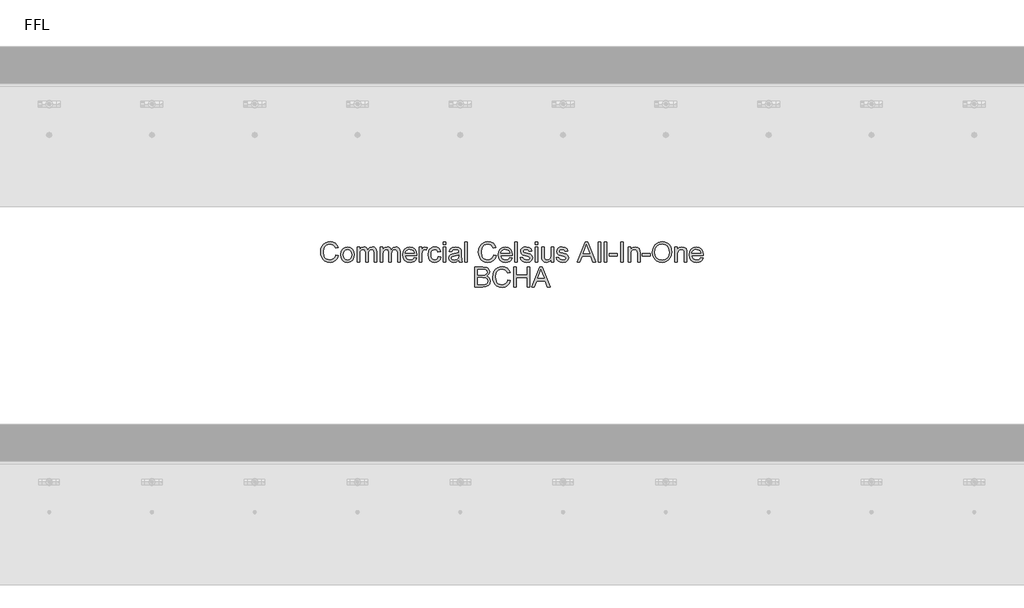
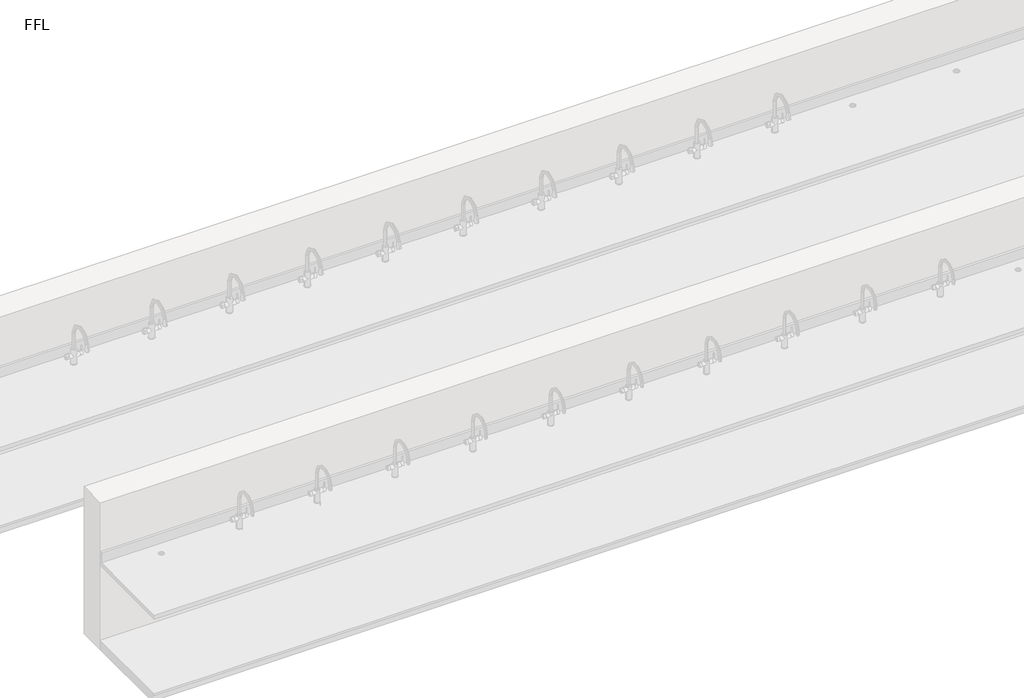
# One storey, part 7 of 9: 1 proxy.
"""IFC4 building model written with IfcOpenShell, lengths in millimetres."""

from ifc_helpers import new_model, si_unit, origin, origin_with_axes, place, context, project, spatial, polyline, outline, extrude, element, save

model = new_model("IFC4")

# Units and contexts
model_context = context("Model", 3, world=origin())
ifc_project = project(units=[si_unit("LENGTHUNIT", "METRE", prefix="MILLI")], contexts=[model_context])

# Site, building, storey
site = spatial("IfcSite", under=ifc_project)
building = spatial("IfcBuilding", under=site)
storey = spatial("IfcBuildingStorey", under=building, Name="FFL", Elevation=0.0)

# Proxy
placement = place(None, origin())
element("IfcBuildingElementProxy", 1, Name="150mm Arial", ObjectType="150mm Arial", at=placement, inside=storey, context=model_context, shape_type="SweptSolid", body=[
    extrude(outline(polyline([(-3627.8122159, 6596.3018309), (-3609.3506775, 6591.5422155), (-3617.8693073, 6570.0292948), (-3631.2376967, 6554.3126482), (-3648.7977929, 6544.698766), (-3669.8915429, 6541.4941386), (-3691.3053049, 6543.9190184), (-3708.311014, 6551.1936578), (-3721.3458698, 6563.065653), (-3730.8470717, 6579.2826001), (-3736.647853, 6598.3481049), (-3738.5814467, 6618.7657732), (-3736.3954491, 6640.3012299), (-3729.8374563, 6658.8979847), (-3719.2500164, 6673.9655929), (-3704.9756775, 6684.9136097), (-3688.0465909, 6691.5797756), (-3669.4949083, 6693.8018309), (-3649.2530212, 6690.9262299), (-3632.5177448, 6682.299427), (-3619.8119155, 6668.4532732), (-3611.6583698, 6649.9196193), (-3630.1199083, 6645.5205809), (-3636.5201486, 6658.9836217), (-3645.264139, 6668.2188982), (-3656.4600525, 6673.5599439), (-3670.2160621, 6675.3402924), (-3686.0724323, 6673.3661338), (-3699.0982736, 6667.4436578), (-3708.9825885, 6658.1948597), (-3715.4143794, 6646.2417347), (-3720.1199083, 6618.8018309), (-3714.5489948, 6586.9989463), (-3707.4276006, 6575.1224439), (-3697.2052448, 6566.6804367), (-3684.9501366, 6561.6368669), (-3671.7304852, 6559.955677), (-3656.3203289, 6562.2453405), (-3643.4792833, 6569.1143309), (-3633.7842712, 6580.4905328), (-3627.8122159, 6596.3018309)])), origin_with_axes(), (0.0, 0.0, 1.0), 5.0),
    extrude(outline(polyline([(-3590.889139, 6598.0326001), (-3586.8957496, 6624.1834415), (-3574.9155813, 6642.5638501), (-3560.1138986, 6651.5692588), (-3542.3915429, 6654.5710617), (-3522.9970116, 6650.9157131), (-3507.5057256, 6639.9496674), (-3497.350978, 6622.5383092), (-3493.9660621, 6599.5470232), (-3495.4624563, 6580.8961818), (-3499.951639, 6566.6984655), (-3507.302901, 6556.0659535), (-3517.3855333, 6548.1107251), (-3529.3611943, 6543.1482852), (-3542.3915429, 6541.4941386), (-3562.0204491, 6545.1359655), (-3577.4937063, 6556.0614463), (-3587.5402809, 6573.8378886), (-3590.889139, 6598.0326001)]), holes=[polyline([(-3572.4276006, 6598.0686578), (-3570.2911823, 6581.3604246), (-3563.8819275, 6569.456879), (-3554.2364948, 6562.3309775), (-3542.3915429, 6559.955677), (-3530.6006775, 6562.3444992), (-3520.9732736, 6569.5109655), (-3514.5640188, 6581.5722636), (-3512.4276006, 6598.6455809), (-3514.5775405, 6614.8670352), (-3521.0273602, 6626.6083213), (-3530.6682857, 6633.7342227), (-3542.3915429, 6636.1095232), (-3554.2364948, 6633.7432371), (-3563.8819275, 6626.644379), (-3570.2911823, 6614.7678766), (-3572.4276006, 6598.0686578)])]), origin_with_axes(), (0.0, 0.0, 1.0), 5.0),
    extrude(outline(polyline([(-3473.1968313, 6543.8018309), (-3473.1968313, 6652.2633693), (-3454.7352929, 6652.2633693), (-3454.7352929, 6634.4148117), (-3442.0429852, 6649.0362059), (-3423.9780813, 6654.5710617), (-3413.7106534, 6653.1603044), (-3405.4804852, 6648.9280328), (-3395.3122159, 6633.1167347), (-3380.9071679, 6649.2074799), (-3362.7160621, 6654.5710617), (-3348.8383578, 6652.3399919), (-3338.5754371, 6645.6467828), (-3332.2337905, 6634.3111458), (-3330.1199083, 6618.1527924), (-3330.1199083, 6543.8018309), (-3348.5814467, 6543.8018309), (-3348.5814467, 6610.2201001), (-3350.2941871, 6625.6347636), (-3356.4961102, 6633.2249078), (-3367.0429852, 6636.1095232), (-3377.0444876, 6634.2615665), (-3385.1980333, 6628.7176963), (-3390.6202087, 6619.0993068), (-3392.4276006, 6605.0277924), (-3392.4276006, 6543.8018309), (-3410.889139, 6543.8018309), (-3410.889139, 6612.2753886), (-3415.1619756, 6630.160004), (-3420.8004972, 6634.6221434), (-3429.170389, 6636.1095232), (-3442.8362544, 6632.143177), (-3451.9227929, 6620.5326001), (-3454.7352929, 6598.5013501), (-3454.7352929, 6543.8018309), (-3473.1968313, 6543.8018309)])), origin_with_axes(), (0.0, 0.0, 1.0), 5.0),
    extrude(outline(polyline([(-3302.4276006, 6543.8018309), (-3302.4276006, 6652.2633693), (-3283.9660621, 6652.2633693), (-3283.9660621, 6634.4148117), (-3271.2737544, 6649.0362059), (-3253.2088506, 6654.5710617), (-3242.9414227, 6653.1603044), (-3234.7112544, 6648.9280328), (-3224.5429852, 6633.1167347), (-3210.1379371, 6649.2074799), (-3191.9468313, 6654.5710617), (-3178.069127, 6652.3399919), (-3167.8062063, 6645.6467828), (-3161.4645597, 6634.3111458), (-3159.3506775, 6618.1527924), (-3159.3506775, 6543.8018309), (-3177.8122159, 6543.8018309), (-3177.8122159, 6610.2201001), (-3179.5249563, 6625.6347636), (-3185.7268794, 6633.2249078), (-3196.2737544, 6636.1095232), (-3206.2752568, 6634.2615665), (-3214.4288025, 6628.7176963), (-3219.850978, 6619.0993068), (-3221.6583698, 6605.0277924), (-3221.6583698, 6543.8018309), (-3240.1199083, 6543.8018309), (-3240.1199083, 6612.2753886), (-3244.3927448, 6630.160004), (-3250.0312664, 6634.6221434), (-3258.4011583, 6636.1095232), (-3272.0670236, 6632.143177), (-3281.1535621, 6620.5326001), (-3283.9660621, 6598.5013501), (-3283.9660621, 6543.8018309), (-3302.4276006, 6543.8018309)])), origin_with_axes(), (0.0, 0.0, 1.0), 5.0),
    extrude(outline(polyline([(-3055.7208698, 6576.1095232), (-3037.6199083, 6573.8018309), (-3044.1418434, 6560.1630088), (-3054.5489948, 6549.9676963), (-3068.6069876, 6543.612528), (-3086.0814467, 6541.4941386), (-3107.7431054, 6545.1494871), (-3124.4107736, 6556.1155328), (-3135.0387784, 6573.6801362), (-3138.5814467, 6597.1311578), (-3135.0027208, 6621.3709415), (-3124.2665429, 6639.4989463), (-3107.8242352, 6650.8030328), (-3087.1271198, 6654.5710617), (-3067.0745357, 6650.8120472), (-3051.0513986, 6639.535004), (-3040.5450885, 6621.4430568), (-3037.0429852, 6597.2393309), (-3037.1511583, 6592.2633693), (-3120.1199083, 6592.2633693), (-3116.9242953, 6578.4442588), (-3109.5009179, 6568.285004), (-3098.787276, 6562.0380088), (-3085.7208698, 6559.955677), (-3067.6199083, 6563.8138501), (-3055.7208698, 6576.1095232)]), holes=[polyline([(-3120.1199083, 6610.7249078), (-3055.5045236, 6610.7249078), (-3058.0015188, 6620.4785136), (-3062.8963506, 6627.455677), (-3073.6595717, 6633.9460617), (-3087.1992352, 6636.1095232), (-3099.6436462, 6634.3832612), (-3109.9336102, 6629.2044751), (-3117.0865549, 6621.1320592), (-3120.1199083, 6610.7249078)])]), origin_with_axes(), (0.0, 0.0, 1.0), 5.0),
    extrude(outline(polyline([(-3018.5814467, 6543.8018309), (-3018.5814467, 6652.2633693), (-3002.4276006, 6652.2633693), (-3002.4276006, 6636.2176963), (-2990.9612544, 6651.0013501), (-2979.4227929, 6654.5710617), (-2960.889139, 6648.8739463), (-2967.0550044, 6632.3234655), (-2980.0357736, 6636.1095232), (-2990.4744756, 6632.4676963), (-2997.1271198, 6622.3715424), (-3000.1199083, 6600.8090424), (-3000.1199083, 6543.8018309), (-3018.5814467, 6543.8018309)])), origin_with_axes(), (0.0, 0.0, 1.0), 5.0),
    extrude(outline(polyline([(-2880.1199083, 6583.0326001), (-2861.6583698, 6580.7249078), (-2866.8056054, 6564.3051362), (-2876.4780813, 6551.8967828), (-2889.7653409, 6544.0947996), (-2905.7569275, 6541.4941386), (-2925.3948482, 6545.1224439), (-2940.7509179, 6556.0073597), (-2950.662276, 6573.6711217), (-2953.9660621, 6597.6359655), (-2948.3230333, 6628.3030328), (-2941.201639, 6639.8009294), (-2931.123514, 6648.0085617), (-2919.0667232, 6652.9304367), (-2906.0093313, 6654.5710617), (-2890.4098722, 6652.3174559), (-2877.9384179, 6645.5566386), (-2868.991603, 6634.6491867), (-2863.9660621, 6619.955677), (-2882.4276006, 6617.6479847), (-2890.9913025, 6631.4761097), (-2905.8651006, 6636.1095232), (-2917.7956895, 6633.8288742), (-2927.2653409, 6626.986927), (-2933.444728, 6615.2140905), (-2935.5045236, 6598.1407732), (-2933.4898001, 6580.8375881), (-2927.4456294, 6569.0241867), (-2918.147252, 6562.2228044), (-2906.3699083, 6559.955677), (-2896.8101126, 6561.3709415), (-2888.9720717, 6565.6167347), (-2883.2704491, 6572.8012299), (-2880.1199083, 6583.0326001)])), origin_with_axes(), (0.0, 0.0, 1.0), 5.0),
    extrude(outline(polyline([(-2845.5045236, 6673.0326001), (-2845.5045236, 6691.4941386), (-2827.0429852, 6691.4941386), (-2827.0429852, 6673.0326001), (-2845.5045236, 6673.0326001)])), origin_with_axes(), (0.0, 0.0, 1.0), 5.0),
    extrude(outline(polyline([(-2845.5045236, 6543.8018309), (-2845.5045236, 6652.2633693), (-2827.0429852, 6652.2633693), (-2827.0429852, 6543.8018309), (-2845.5045236, 6543.8018309)])), origin_with_axes(), (0.0, 0.0, 1.0), 5.0),
    extrude(outline(polyline([(-2730.1199083, 6557.6479847), (-2748.0225525, 6545.1359655), (-2767.8001967, 6541.4941386), (-2783.2283818, 6543.6846434), (-2794.6090909, 6550.2561578), (-2801.6268193, 6560.2351242), (-2803.9660621, 6572.6479847), (-2800.4324083, 6587.2513501), (-2791.1475525, 6597.8523117), (-2778.2208698, 6603.910004), (-2762.2473121, 6606.6864463), (-2730.2280813, 6613.0326001), (-2730.1199083, 6617.143177), (-2731.3909419, 6625.3823597), (-2735.2040429, 6630.7729847), (-2743.7316871, 6634.7753886), (-2755.6126967, 6636.1095232), (-2774.2905813, 6632.5578405), (-2783.1968313, 6619.955677), (-2801.6583698, 6622.2633693), (-2793.6715909, 6640.2922155), (-2777.5898602, 6650.8571193), (-2753.232889, 6654.5710617), (-2730.8590909, 6651.2898117), (-2718.2208698, 6643.050629), (-2712.5598121, 6630.5205809), (-2711.6583698, 6614.3667347), (-2711.6583698, 6591.3979847), (-2710.7208698, 6559.3246674), (-2707.0429852, 6543.8018309), (-2725.5045236, 6543.8018309), (-2730.1199083, 6557.6479847)]), holes=[polyline([(-2730.1199083, 6594.5710617), (-2759.9035621, 6588.910004), (-2775.7869756, 6585.9172155), (-2782.9804852, 6581.049427), (-2785.5045236, 6573.9460617), (-2780.0057256, 6563.9580809), (-2763.8699083, 6559.955677), (-2745.1920236, 6564.3727443), (-2733.1487544, 6575.0638501), (-2730.2280813, 6589.3426963), (-2730.1199083, 6594.5710617)])]), origin_with_axes(), (0.0, 0.0, 1.0), 5.0),
    extrude(outline(polyline([(-2686.2737544, 6543.8018309), (-2686.2737544, 6691.4941386), (-2667.8122159, 6691.4941386), (-2667.8122159, 6543.8018309), (-2686.2737544, 6543.8018309)])), origin_with_axes(), (0.0, 0.0, 1.0), 5.0),
    extrude(outline(polyline([(-2476.2737544, 6596.3018309), (-2457.8122159, 6591.5422155), (-2466.3308458, 6570.0292948), (-2479.6992352, 6554.3126482), (-2497.2593313, 6544.698766), (-2518.3530813, 6541.4941386), (-2539.7668434, 6543.9190184), (-2556.7725525, 6551.1936578), (-2569.8074083, 6563.065653), (-2579.3086102, 6579.2826001), (-2585.1093914, 6598.3481049), (-2587.0429852, 6618.7657732), (-2584.8569876, 6640.3012299), (-2578.2989948, 6658.8979847), (-2567.7115549, 6673.9655929), (-2553.4372159, 6684.9136097), (-2536.5081294, 6691.5797756), (-2517.9564467, 6693.8018309), (-2497.7145597, 6690.9262299), (-2480.9792833, 6682.299427), (-2468.2734539, 6668.4532732), (-2460.1199083, 6649.9196193), (-2478.5814467, 6645.5205809), (-2484.9816871, 6658.9836217), (-2493.7256775, 6668.2188982), (-2504.9215909, 6673.5599439), (-2518.6776006, 6675.3402924), (-2534.5339708, 6673.3661338), (-2547.5598121, 6667.4436578), (-2557.444127, 6658.1948597), (-2563.8759179, 6646.2417347), (-2568.5814467, 6618.8018309), (-2563.0105333, 6586.9989463), (-2555.889139, 6575.1224439), (-2545.6667833, 6566.6804367), (-2533.4116751, 6561.6368669), (-2520.1920236, 6559.955677), (-2504.7818674, 6562.2453405), (-2491.9408217, 6569.1143309), (-2482.2458097, 6580.4905328), (-2476.2737544, 6596.3018309)])), origin_with_axes(), (0.0, 0.0, 1.0), 5.0),
    extrude(outline(polyline([(-2358.7977929, 6576.1095232), (-2340.6968313, 6573.8018309), (-2347.2187664, 6560.1630088), (-2357.6259179, 6549.9676963), (-2371.6839107, 6543.612528), (-2389.1583698, 6541.4941386), (-2410.8200284, 6545.1494871), (-2427.4876967, 6556.1155328), (-2438.1157015, 6573.6801362), (-2441.6583698, 6597.1311578), (-2438.0796438, 6621.3709415), (-2427.3434659, 6639.4989463), (-2410.9011583, 6650.8030328), (-2390.2040429, 6654.5710617), (-2370.1514587, 6650.8120472), (-2354.1283217, 6639.535004), (-2343.6220116, 6621.4430568), (-2340.1199083, 6597.2393309), (-2340.2280813, 6592.2633693), (-2423.1968313, 6592.2633693), (-2420.0012184, 6578.4442588), (-2412.5778409, 6568.285004), (-2401.8641991, 6562.0380088), (-2388.7977929, 6559.955677), (-2370.6968313, 6563.8138501), (-2358.7977929, 6576.1095232)]), holes=[polyline([(-2423.1968313, 6610.7249078), (-2358.5814467, 6610.7249078), (-2361.0784419, 6620.4785136), (-2365.9732736, 6627.455677), (-2376.7364948, 6633.9460617), (-2390.2761583, 6636.1095232), (-2402.7205693, 6634.3832612), (-2413.0105333, 6629.2044751), (-2420.163478, 6621.1320592), (-2423.1968313, 6610.7249078)])]), origin_with_axes(), (0.0, 0.0, 1.0), 5.0),
    extrude(outline(polyline([(-2321.6583698, 6543.8018309), (-2321.6583698, 6691.4941386), (-2303.1968313, 6691.4941386), (-2303.1968313, 6543.8018309), (-2321.6583698, 6543.8018309)])), origin_with_axes(), (0.0, 0.0, 1.0), 5.0),
    extrude(outline(polyline([(-2282.4276006, 6576.1095232), (-2263.9660621, 6578.4172155), (-2261.0544034, 6570.5205809), (-2255.420389, 6564.7152924), (-2235.8410621, 6559.955677), (-2217.0189467, 6564.3186578), (-2210.889139, 6574.5590424), (-2217.0550044, 6582.8523117), (-2236.0574083, 6588.1167347), (-2263.857889, 6597.1491867), (-2275.9913025, 6607.6960617), (-2280.1199083, 6622.5878886), (-2276.8026006, 6636.3438982), (-2267.7521198, 6646.8547155), (-2256.0153409, 6652.3174559), (-2240.1319275, 6654.5710617), (-2217.6679852, 6650.9472636), (-2203.389139, 6641.1395713), (-2197.0429852, 6624.5710617), (-2215.5045236, 6622.2633693), (-2222.4456294, 6632.4496674), (-2238.6896198, 6636.1095232), (-2256.357889, 6632.611927), (-2261.6583698, 6624.4628886), (-2259.4588506, 6619.0902924), (-2252.5718313, 6615.0157732), (-2236.670389, 6611.0854847), (-2209.5730333, 6602.3955809), (-2196.9888986, 6592.5518309), (-2192.4276006, 6576.5061578), (-2197.7821679, 6558.8378886), (-2213.232889, 6546.019379), (-2236.0934659, 6541.4941386), (-2254.7082496, 6543.675629), (-2268.2929852, 6550.2201001), (-2277.3614948, 6561.0554367), (-2282.4276006, 6576.1095232)])), origin_with_axes(), (0.0, 0.0, 1.0), 5.0),
    extrude(outline(polyline([(-2171.6583698, 6543.8018309), (-2171.6583698, 6652.2633693), (-2153.1968313, 6652.2633693), (-2153.1968313, 6543.8018309), (-2171.6583698, 6543.8018309)])), origin_with_axes(), (0.0, 0.0, 1.0), 5.0),
    extrude(outline(polyline([(-2171.6583698, 6673.0326001), (-2171.6583698, 6691.4941386), (-2153.1968313, 6691.4941386), (-2153.1968313, 6673.0326001), (-2171.6583698, 6673.0326001)])), origin_with_axes(), (0.0, 0.0, 1.0), 5.0),
    extrude(outline(polyline([(-2056.2737544, 6543.8018309), (-2056.2737544, 6562.4436578), (-2070.732889, 6546.7315184), (-2089.5910621, 6541.4941386), (-2106.9528409, 6545.1720232), (-2118.9239948, 6554.4027924), (-2124.4227929, 6567.9965424), (-2125.5045236, 6585.160004), (-2125.5045236, 6652.2633693), (-2107.0429852, 6652.2633693), (-2107.0429852, 6593.8499078), (-2105.9251967, 6575.0277924), (-2098.623514, 6563.9761097), (-2084.8675044, 6559.955677), (-2069.4528409, 6564.066254), (-2059.2665429, 6575.2621674), (-2056.2737544, 6595.8330809), (-2056.2737544, 6652.2633693), (-2037.8122159, 6652.2633693), (-2037.8122159, 6543.8018309), (-2056.2737544, 6543.8018309)])), origin_with_axes(), (0.0, 0.0, 1.0), 5.0),
    extrude(outline(polyline([(-2019.3506775, 6576.1095232), (-2000.889139, 6578.4172155), (-1997.9774804, 6570.5205809), (-1992.3434659, 6564.7152924), (-1972.764139, 6559.955677), (-1953.9420236, 6564.3186578), (-1947.8122159, 6574.5590424), (-1953.9780813, 6582.8523117), (-1972.9804852, 6588.1167347), (-2000.7809659, 6597.1491867), (-2012.9143794, 6607.6960617), (-2017.0429852, 6622.5878886), (-2013.7256775, 6636.3438982), (-2004.6751967, 6646.8547155), (-1992.9384179, 6652.3174559), (-1977.0550044, 6654.5710617), (-1954.5910621, 6650.9472636), (-1940.3122159, 6641.1395713), (-1933.9660621, 6624.5710617), (-1952.4276006, 6622.2633693), (-1959.3687063, 6632.4496674), (-1975.6126967, 6636.1095232), (-1993.2809659, 6632.611927), (-1998.5814467, 6624.4628886), (-1996.3819275, 6619.0902924), (-1989.4949083, 6615.0157732), (-1973.5934659, 6611.0854847), (-1946.4961102, 6602.3955809), (-1933.9119756, 6592.5518309), (-1929.3506775, 6576.5061578), (-1934.7052448, 6558.8378886), (-1950.1559659, 6546.019379), (-1973.0165429, 6541.4941386), (-1991.6313265, 6543.675629), (-2005.2160621, 6550.2201001), (-2014.2845717, 6561.0554367), (-2019.3506775, 6576.1095232)])), origin_with_axes(), (0.0, 0.0, 1.0), 5.0),
    extrude(outline(polyline([(-1865.7809659, 6543.8018309), (-1806.826639, 6691.4941386), (-1791.1054852, 6691.4941386), (-1732.1511583, 6543.8018309), (-1751.6583698, 6543.8018309), (-1768.5694275, 6589.955677), (-1829.3987544, 6589.955677), (-1846.2737544, 6543.8018309), (-1865.7809659, 6543.8018309)]), holes=[polyline([(-1822.6199083, 6608.4172155), (-1775.3122159, 6608.4172155), (-1788.6175044, 6644.7273117), (-1798.9660621, 6673.0326001), (-1808.1607736, 6647.9003886), (-1822.6199083, 6608.4172155)])]), origin_with_axes(), (0.0, 0.0, 1.0), 5.0),
    extrude(outline(polyline([(-1714.7352929, 6543.8018309), (-1714.7352929, 6691.4941386), (-1696.2737544, 6691.4941386), (-1696.2737544, 6543.8018309), (-1714.7352929, 6543.8018309)])), origin_with_axes(), (0.0, 0.0, 1.0), 5.0),
    extrude(outline(polyline([(-1668.5814467, 6543.8018309), (-1668.5814467, 6691.4941386), (-1650.1199083, 6691.4941386), (-1650.1199083, 6543.8018309), (-1668.5814467, 6543.8018309)])), origin_with_axes(), (0.0, 0.0, 1.0), 5.0),
    extrude(outline(polyline([(-1631.6583698, 6587.6479847), (-1631.6583698, 6606.1095232), (-1573.9660621, 6606.1095232), (-1573.9660621, 6587.6479847), (-1631.6583698, 6587.6479847)])), origin_with_axes(), (0.0, 0.0, 1.0), 5.0),
    extrude(outline(polyline([(-1548.5814467, 6543.8018309), (-1548.5814467, 6691.4941386), (-1530.1199083, 6691.4941386), (-1530.1199083, 6543.8018309), (-1548.5814467, 6543.8018309)])), origin_with_axes(), (0.0, 0.0, 1.0), 5.0),
    extrude(outline(polyline([(-1495.5045236, 6543.8018309), (-1495.5045236, 6652.2633693), (-1477.0429852, 6652.2633693), (-1477.0429852, 6637.1191386), (-1462.9263986, 6650.2080809), (-1443.6535621, 6654.5710617), (-1426.2196679, 6651.0554367), (-1414.3206294, 6641.8246674), (-1408.7857736, 6628.2489463), (-1407.8122159, 6610.4003886), (-1407.8122159, 6543.8018309), (-1426.2737544, 6543.8018309), (-1426.2737544, 6607.9124078), (-1428.4011583, 6624.2465424), (-1435.9191871, 6632.8823597), (-1448.5934659, 6636.1095232), (-1459.4062664, 6634.2976242), (-1468.623514, 6628.861927), (-1474.9381174, 6618.3601242), (-1477.0429852, 6601.3499078), (-1477.0429852, 6543.8018309), (-1495.5045236, 6543.8018309)])), origin_with_axes(), (0.0, 0.0, 1.0), 5.0),
    extrude(outline(polyline([(-1391.6583698, 6587.6479847), (-1391.6583698, 6606.1095232), (-1333.9660621, 6606.1095232), (-1333.9660621, 6587.6479847), (-1391.6583698, 6587.6479847)])), origin_with_axes(), (0.0, 0.0, 1.0), 5.0),
    extrude(outline(polyline([(-1317.8122159, 6615.7008693), (-1312.8903409, 6648.3601242), (-1298.1247159, 6673.0686578), (-1275.5796438, 6688.6185376), (-1247.3194275, 6693.8018309), (-1227.9474323, 6691.3679367), (-1210.576639, 6684.066254), (-1196.1535621, 6672.4106049), (-1185.6247159, 6656.9148117), (-1179.1884179, 6638.3270713), (-1177.0429852, 6617.3955809), (-1179.3010982, 6596.1846434), (-1186.0754371, 6577.3354847), (-1196.9919034, 6561.8126482), (-1211.6763986, 6550.580677), (-1228.8984539, 6543.7657732), (-1247.4276006, 6541.4941386), (-1267.0970717, 6544.0046554), (-1284.5670236, 6551.5362059), (-1298.9540429, 6563.4082011), (-1309.3747159, 6578.940052), (-1315.7028409, 6596.8111458), (-1317.8122159, 6615.7008693)]), holes=[polyline([(-1299.3506775, 6615.5205809), (-1295.6592712, 6592.4166145), (-1284.5850525, 6574.8114463), (-1267.9399203, 6563.6696193), (-1247.5357736, 6559.955677), (-1226.834151, 6563.705677), (-1210.1619756, 6574.955677), (-1199.1688866, 6593.1017107), (-1195.5045236, 6617.5398117), (-1197.0730333, 6633.8829607), (-1201.7785621, 6648.0085617), (-1209.4994155, 6659.5605448), (-1220.1138986, 6668.1828405), (-1232.9188866, 6673.5509294), (-1247.2112544, 6675.3402924), (-1267.0700284, 6671.8922756), (-1283.9540429, 6661.5482251), (-1295.5015188, 6643.1452804), (-1299.3506775, 6615.5205809)])]), origin_with_axes(), (0.0, 0.0, 1.0), 5.0),
    extrude(outline(polyline([(-1153.9660621, 6543.8018309), (-1153.9660621, 6652.2633693), (-1135.5045236, 6652.2633693), (-1135.5045236, 6637.1191386), (-1121.3879371, 6650.2080809), (-1102.1151006, 6654.5710617), (-1084.6812063, 6651.0554367), (-1072.7821679, 6641.8246674), (-1067.2473121, 6628.2489463), (-1066.2737544, 6610.4003886), (-1066.2737544, 6543.8018309), (-1084.7352929, 6543.8018309), (-1084.7352929, 6607.9124078), (-1086.8626967, 6624.2465424), (-1094.3807256, 6632.8823597), (-1107.0550044, 6636.1095232), (-1117.8678049, 6634.2976242), (-1127.0850525, 6628.861927), (-1133.3996559, 6618.3601242), (-1135.5045236, 6601.3499078), (-1135.5045236, 6543.8018309), (-1153.9660621, 6543.8018309)])), origin_with_axes(), (0.0, 0.0, 1.0), 5.0),
    extrude(outline(polyline([(-964.951639, 6576.1095232), (-946.8506775, 6573.8018309), (-953.3726126, 6560.1630088), (-963.779764, 6549.9676963), (-977.8377568, 6543.612528), (-995.3122159, 6541.4941386), (-1016.9738746, 6545.1494871), (-1033.6415429, 6556.1155328), (-1044.2695477, 6573.6801362), (-1047.8122159, 6597.1311578), (-1044.23349, 6621.3709415), (-1033.4973121, 6639.4989463), (-1017.0550044, 6650.8030328), (-996.357889, 6654.5710617), (-976.3053049, 6650.8120472), (-960.2821679, 6639.535004), (-949.7758578, 6621.4430568), (-946.2737544, 6597.2393309), (-946.3819275, 6592.2633693), (-1029.3506775, 6592.2633693), (-1026.1550645, 6578.4442588), (-1018.7316871, 6568.285004), (-1008.0180453, 6562.0380088), (-994.951639, 6559.955677), (-976.8506775, 6563.8138501), (-964.951639, 6576.1095232)]), holes=[polyline([(-1029.3506775, 6610.7249078), (-964.7352929, 6610.7249078), (-967.2322881, 6620.4785136), (-972.1271198, 6627.455677), (-982.8903409, 6633.9460617), (-996.4300044, 6636.1095232), (-1008.8744155, 6634.3832612), (-1019.1643794, 6629.2044751), (-1026.3173241, 6621.1320592), (-1029.3506775, 6610.7249078)])]), origin_with_axes(), (0.0, 0.0, 1.0), 5.0),
    extrude(outline(polyline([(-2612.4276006, 6361.4941386), (-2612.4276006, 6509.1864463), (-2556.0694275, 6509.1864463), (-2528.467264, 6504.8414943), (-2519.1914227, 6499.3291746), (-2512.1691871, 6491.4821193), (-2506.2737544, 6472.5878886), (-2511.2316871, 6455.3342828), (-2526.2136583, 6442.2633693), (-2515.7524203, 6436.800629), (-2508.0225525, 6428.4893309), (-2503.2494155, 6417.8793549), (-2501.6583698, 6405.5205809), (-2506.0033217, 6385.6708213), (-2516.7665429, 6371.5362059), (-2532.8302448, 6364.0362059), (-2556.5021198, 6361.4941386), (-2612.4276006, 6361.4941386)]), holes=[polyline([(-2593.9660621, 6449.1864463), (-2560.2521198, 6449.1864463), (-2540.5646198, 6450.7729847), (-2528.7196679, 6457.6059174), (-2524.7352929, 6469.6311578), (-2528.4492352, 6481.674427), (-2539.0862544, 6488.7958213), (-2562.8122159, 6490.7249078), (-2593.9660621, 6490.7249078), (-2593.9660621, 6449.1864463)]), polyline([(-2593.9660621, 6379.955677), (-2556.1054852, 6379.955677), (-2542.4035621, 6380.6768309), (-2530.811014, 6384.6972636), (-2523.1307256, 6392.9003886), (-2520.1199083, 6405.3402924), (-2523.6535621, 6419.691254), (-2535.1018794, 6428.2549559), (-2557.9083698, 6430.7249078), (-2593.9660621, 6430.7249078), (-2593.9660621, 6379.955677)])]), origin_with_axes(), (0.0, 0.0, 1.0), 5.0),
    extrude(outline(polyline([(-2372.4276006, 6413.9941386), (-2353.9660621, 6409.2345232), (-2362.4846919, 6387.7216025), (-2375.8530813, 6372.0049559), (-2393.4131775, 6362.3910737), (-2414.5069275, 6359.1864463), (-2435.9206895, 6361.6113261), (-2452.9263986, 6368.8859655), (-2465.9612544, 6380.7579607), (-2475.4624563, 6396.9749078), (-2481.2632376, 6416.0404126), (-2483.1968313, 6436.4580809), (-2481.0108337, 6457.9935376), (-2474.4528409, 6476.5902924), (-2463.865401, 6491.6579006), (-2449.5910621, 6502.6059174), (-2432.6619756, 6509.2720833), (-2414.1102929, 6511.4941386), (-2393.8684059, 6508.6185376), (-2377.1331294, 6499.9917347), (-2364.4273001, 6486.1455809), (-2356.2737544, 6467.611927), (-2374.7352929, 6463.2128886), (-2381.1355333, 6476.6759294), (-2389.8795236, 6485.9112059), (-2401.0754371, 6491.2522516), (-2414.8314467, 6493.0326001), (-2430.6878169, 6491.0584415), (-2443.7136583, 6485.1359655), (-2453.5979732, 6475.8871674), (-2460.029764, 6463.9340424), (-2464.7352929, 6436.4941386), (-2459.1643794, 6404.691254), (-2452.0429852, 6392.8147516), (-2441.8206294, 6384.3727443), (-2429.5655212, 6379.3291746), (-2416.3458698, 6377.6479847), (-2400.9357135, 6379.9376482), (-2388.0946679, 6386.8066386), (-2378.3996559, 6398.1828405), (-2372.4276006, 6413.9941386)])), origin_with_axes(), (0.0, 0.0, 1.0), 5.0),
    extrude(outline(polyline([(-2328.5814467, 6361.4941386), (-2328.5814467, 6509.1864463), (-2310.1199083, 6509.1864463), (-2310.1199083, 6449.1864463), (-2231.6583698, 6449.1864463), (-2231.6583698, 6509.1864463), (-2213.1968313, 6509.1864463), (-2213.1968313, 6361.4941386), (-2231.6583698, 6361.4941386), (-2231.6583698, 6430.7249078), (-2310.1199083, 6430.7249078), (-2310.1199083, 6361.4941386), (-2328.5814467, 6361.4941386)])), origin_with_axes(), (0.0, 0.0, 1.0), 5.0),
    extrude(outline(polyline([(-2198.0886583, 6361.4941386), (-2139.1343313, 6509.1864463), (-2123.4131775, 6509.1864463), (-2064.4588506, 6361.4941386), (-2083.9660621, 6361.4941386), (-2100.8771198, 6407.6479847), (-2161.7064467, 6407.6479847), (-2178.5814467, 6361.4941386), (-2198.0886583, 6361.4941386)]), holes=[polyline([(-2154.9276006, 6426.1095232), (-2107.6199083, 6426.1095232), (-2120.9251967, 6462.4196193), (-2131.2737544, 6490.7249078), (-2140.4684659, 6465.5926963), (-2154.9276006, 6426.1095232)])]), origin_with_axes(), (0.0, 0.0, 1.0), 5.0),
])

save(model, "model.ifc")
